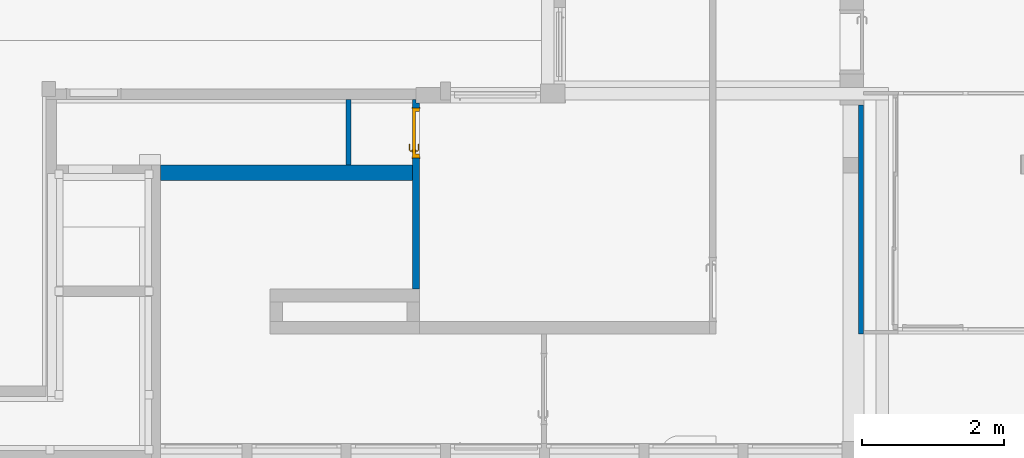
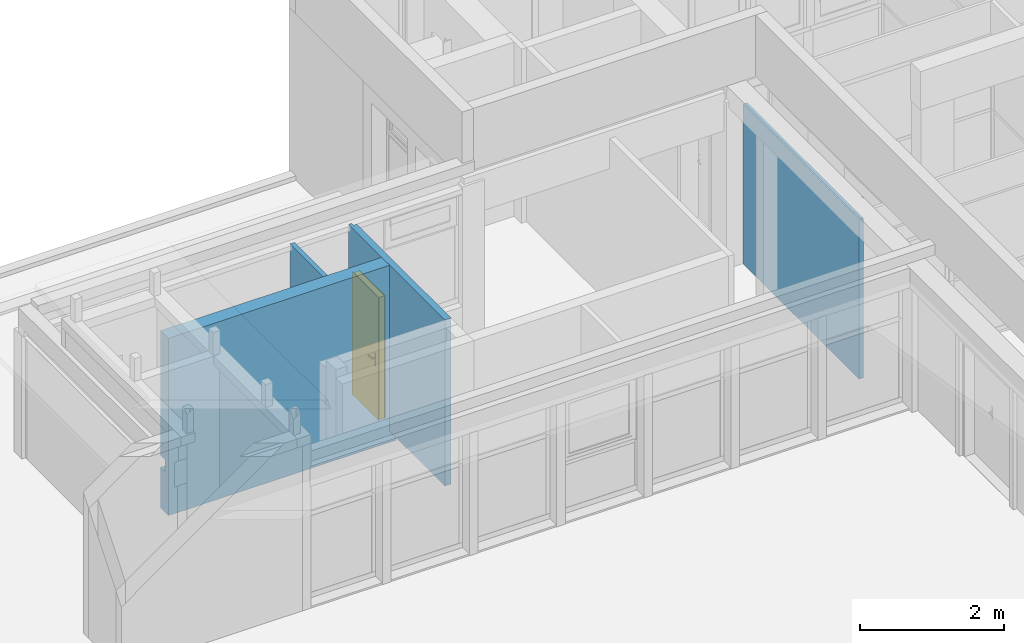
# One storey, part 23 of 49: 4 walls, 1 door, 2 openings.
"""IFC4 building model written with IfcOpenShell, lengths in metres."""

from ifc_helpers import new_model, entity, si_unit, converted_unit, derived_unit, direction, frame, origin, place, context, subcontext, project, spatial, indexed_curve, outline, extrude, polygons, source, transform, mapped, material, material_list, layer, layer_set, constituent, constituent_set, type_object, type_shapes, element, fill, save


model = new_model("IFC4")

# Units and contexts
model_context = context("Model", 3, precision=1e-05, world=origin(), true_north=direction((6.12303176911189e-17, 1.0)))
body_context = subcontext(model_context, "Body", "Model", "MODEL_VIEW")
ifc_project = project(units=[si_unit("LENGTHUNIT", "METRE"), si_unit("AREAUNIT", "SQUARE_METRE"), si_unit("VOLUMEUNIT", "CUBIC_METRE"), converted_unit("PLANEANGLEUNIT", "DEGREE", entity("IfcRatioMeasure", 0.0174532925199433), si_unit("PLANEANGLEUNIT", "RADIAN"), dimensions=[0, 0, 0, 0, 0, 0, 0]), si_unit("MASSUNIT", "GRAM", prefix="KILO"), derived_unit("MASSDENSITYUNIT", [(si_unit("MASSUNIT", "GRAM", prefix="KILO"), 1), (si_unit("LENGTHUNIT", "METRE"), -3)]), derived_unit("MOMENTOFINERTIAUNIT", [(si_unit("LENGTHUNIT", "METRE"), 4)]), si_unit("TIMEUNIT", "SECOND"), si_unit("FREQUENCYUNIT", "HERTZ"), si_unit("THERMODYNAMICTEMPERATUREUNIT", "DEGREE_CELSIUS"), derived_unit("THERMALTRANSMITTANCEUNIT", [(si_unit("MASSUNIT", "GRAM", prefix="KILO"), 1), (si_unit("THERMODYNAMICTEMPERATUREUNIT", "KELVIN"), -1), (si_unit("TIMEUNIT", "SECOND"), -3)]), derived_unit("VOLUMETRICFLOWRATEUNIT", [(si_unit("LENGTHUNIT", "METRE"), 3), (si_unit("TIMEUNIT", "SECOND"), -1)]), si_unit("ELECTRICCURRENTUNIT", "AMPERE"), si_unit("ELECTRICVOLTAGEUNIT", "VOLT"), si_unit("POWERUNIT", "WATT"), si_unit("FORCEUNIT", "NEWTON", prefix="KILO"), si_unit("ILLUMINANCEUNIT", "LUX"), si_unit("LUMINOUSFLUXUNIT", "LUMEN"), si_unit("LUMINOUSINTENSITYUNIT", "CANDELA"), derived_unit("USERDEFINED", [(si_unit("MASSUNIT", "GRAM", prefix="KILO"), -1), (si_unit("LENGTHUNIT", "METRE"), -2), (si_unit("TIMEUNIT", "SECOND"), 3), (si_unit("LUMINOUSFLUXUNIT", "LUMEN"), 1)]), derived_unit("LINEARVELOCITYUNIT", [(si_unit("LENGTHUNIT", "METRE"), 1), (si_unit("TIMEUNIT", "SECOND"), -1)]), si_unit("PRESSUREUNIT", "PASCAL"), derived_unit("USERDEFINED", [(si_unit("LENGTHUNIT", "METRE"), -2), (si_unit("MASSUNIT", "GRAM", prefix="KILO"), 1), (si_unit("TIMEUNIT", "SECOND"), -2)]), derived_unit("LINEARFORCEUNIT", [(si_unit("MASSUNIT", "GRAM", prefix="KILO"), 1), (si_unit("LENGTHUNIT", "METRE"), 1), (si_unit("TIMEUNIT", "SECOND"), -2), (si_unit("LENGTHUNIT", "METRE"), -1)]), derived_unit("PLANARFORCEUNIT", [(si_unit("MASSUNIT", "GRAM", prefix="KILO"), 1), (si_unit("LENGTHUNIT", "METRE"), 1), (si_unit("TIMEUNIT", "SECOND"), -2), (si_unit("LENGTHUNIT", "METRE"), -2)])], contexts=[model_context])

# Site, building, storey
site_placement = place(None, origin())
site = spatial("IfcSite", under=ifc_project, at=site_placement, Name="Default", CompositionType="ELEMENT")
building_placement = place(site_placement, origin())
building = spatial("IfcBuilding", under=site, at=building_placement, Name="HOTEL CONSULAIRE BOULOGNE SUR MER", CompositionType="ELEMENT")
storey_placement = place(building_placement, frame((0.0, 0.0, 6.81974152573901)))
storey = spatial("IfcBuildingStorey", under=building, at=storey_placement, Name="Niveau 2", CompositionType="ELEMENT", Elevation=6.81974152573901)

# Wall
ifc_material_1 = material(Name="Mur par défaut", Category="Divers")
ifc_layer_1 = layer(ifc_material_1, 0.07, Name="Mur par défaut", Category="Divers")
ifc_layer_set_1 = layer_set([ifc_layer_1], Name="Mur de base:Int. Plâtre 70 mm")
wall_type_1 = type_object("IfcWallType", Name="Mur de base:Int. Plâtre 70 mm", PredefinedType="NOTDEFINED", material=ifc_layer_set_1)
wall_1_placement = place(storey_placement, frame((4.4059869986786, -15.6352420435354, -0.0349999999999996), z_axis=(0.0, 0.0, 1.0), x_axis=(0.0, 1.0, 0.0)))
element("IfcWall", 1, at=wall_1_placement, inside=storey, type_object=wall_type_1, material=ifc_layer_set_1, Name="Mur de base:Int. Plâtre 70 mm", ObjectType="Mur de base:Int. Plâtre 70 mm", PredefinedType="NOTDEFINED", context=body_context, shape_type="SweptSolid", body=[
    extrude(outline(indexed_curve([(0.922331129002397, 0.0350000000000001), (-6.00400995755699e-17, 0.0350000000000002), (6.00400995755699e-17, -0.0350000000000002), (0.922331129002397, -0.0350000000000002), (0.922331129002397, 0.0350000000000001)], self_intersect=False)), origin(), (0.0, 0.0, 1.0), 2.857),
])

# Wall, opening, door
ifc_layer_2 = layer(ifc_material_1, 0.1, Name="Mur par défaut", Category="Divers")
ifc_layer_set_2 = layer_set([ifc_layer_2], Name="Mur de base:Générique - Int. 100 mm")
wall_type_2 = type_object("IfcWallType", Name="Mur de base:Générique - Int. 100 mm", PredefinedType="NOTDEFINED", material=ifc_layer_set_2)
wall_2_placement = place(storey_placement, frame((5.36198029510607, -17.3888875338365, 0.0), z_axis=(0.0, 0.0, 1.0), x_axis=(0.0, 1.0, 0.0)))
wall_2 = element("IfcWall", 2, at=wall_2_placement, inside=storey, type_object=wall_type_2, material=ifc_layer_set_2, Name="Mur de base:Générique - Int. 100 mm", ObjectType="Mur de base:Générique - Int. 100 mm", PredefinedType="NOTDEFINED", context=body_context, shape_type="Tessellation", body=[
    polygons([(2.67597661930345, 0.0499999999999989, 0.0), (2.67597661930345, -1.65241990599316e-15, 0.0), (2.62597661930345, 4.15699073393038e-16, 0.0), (2.62597661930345, -0.0500000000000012, 0.0), (2.55264549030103, -0.0500000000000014, 0.0), (2.55264549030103, 0.0499999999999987, 0.0), (2.62597661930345, -0.0500000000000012, 2.822), (0.0, -0.0500000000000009, 2.822), (0.0, -0.0500000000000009, 0.0), (1.53364549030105, -0.0500000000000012, 0.0), (1.85264549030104, -0.0500000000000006, 0.0), (1.85264549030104, -0.0500000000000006, 2.07500000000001), (2.55264549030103, -0.0500000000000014, 2.07500000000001), (2.55264549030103, 0.0499999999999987, 2.07500000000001), (1.85264549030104, 0.0499999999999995, 2.07500000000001), (1.85264549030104, 0.0499999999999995, 0.0), (1.75364549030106, 0.0499999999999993, 0.0), (1.53364549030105, 0.0499999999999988, 0.0), (0.0, 0.0499999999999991, 0.0), (2.16573425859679e-15, 0.0499999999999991, 2.822), (1.53364549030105, 0.0499999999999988, 2.822), (1.75364549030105, 0.0499999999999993, 2.822), (2.67597661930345, 0.0499999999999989, 2.822), (2.62597661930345, 4.15699073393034e-16, 2.73999999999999), (2.62597661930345, 4.15699073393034e-16, 2.822), (2.67597661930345, -2.73528703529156e-15, 0.642000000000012), (2.67597661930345, -1.65241990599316e-15, 2.73999999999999), (2.67597661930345, -1.65241990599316e-15, 2.822)], [[[5, 6, 1, 2, 3, 4]], [[10, 9, 19, 18, 17, 16, 11]], [[14, 13, 12, 15]], [[9, 10, 11, 12, 13, 5, 4, 7, 8]], [[24, 3, 2, 26, 27, 28, 25]], [[1, 6, 14, 15, 16, 17, 18, 19, 20, 21, 22, 23]], [[19, 9, 8, 20]], [[6, 5, 13, 14]], [[7, 4, 3, 24, 25]], [[28, 27, 26, 2, 1, 23]], [[16, 15, 12, 11]], [[21, 20, 8, 7, 25, 28, 23, 22]]], closed=True),
])
opening_1_placement = place(wall_2_placement, frame((1.85264549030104, -0.0499999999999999, 0.0)))
opening_1 = element("IfcOpeningElement", 3, at=opening_1_placement, cuts=wall_2, Name="Int. Simple:PP (0.63m x 2.04m):1", ObjectType="Opening", PredefinedType="OPENING", context=body_context, shape_type="SweptSolid", body=[
    extrude(outline(indexed_curve([(0.0, 0.699999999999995), (0.0, -1.56904934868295e-30), (2.07500000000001, -1.56904934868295e-30), (2.07500000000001, 0.699999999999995), (0.0, 0.699999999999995)], self_intersect=False)), frame((0.0, 0.0, 0.0), z_axis=(0.0, 1.0, 0.0), x_axis=(0.0, 0.0, 1.0)), (0.0, 0.0, 1.0), 0.1),
])
ifc_material_2 = material(Name="Finition Peinture - Blanc satiné", Category="Peinture")
ifc_constituent_1 = constituent(ifc_material_2, Name="Finition Peinture - Blanc satiné", Category="Matériaux")
ifc_material_3 = material(Name="Bois - Panneau de porte", Category="Bois")
ifc_constituent_2 = constituent(ifc_material_3, Name="Bois - Panneau de porte", Category="Matériaux")
ifc_material_4 = material(Name="Bois - Cadre de porte", Category="Bois")
ifc_constituent_3 = constituent(ifc_material_4, Name="Bois - Cadre de porte", Category="Matériaux")
ifc_constituent_set = constituent_set(constituents=[ifc_constituent_1, ifc_constituent_2, ifc_constituent_3], Name="MaterialConstituentSet")
ifc_material_list = material_list([ifc_material_4, ifc_material_4, ifc_material_2, ifc_material_3])
door_type = type_object("IfcDoorType", Name="Int. Simple:PP (0.63m x 2.04m)", OperationType="NOTDEFINED", PredefinedType="DOOR", material=ifc_material_list)
shared_shape = source(origin(), body_context, "Body", "Tessellation", [
    polygons([(0.695000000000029, -0.00500000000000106, 0.870000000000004), (0.695000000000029, -0.00500000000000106, 1.08), (0.68535276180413, -0.00500000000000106, 1.08399601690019), (0.675000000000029, -0.00500000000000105, 1.08535898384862), (0.664647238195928, -0.00500000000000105, 1.08399601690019), (0.65500000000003, -0.00500000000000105, 1.08), (0.655000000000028, -0.00500000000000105, 0.870000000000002), (0.664647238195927, -0.00500000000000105, 0.866003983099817), (0.675000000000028, -0.00500000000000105, 0.86464101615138), (0.685352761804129, -0.00500000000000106, 0.866003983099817), (0.695000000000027, -1.06594733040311e-15, 0.870000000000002), (0.685352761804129, -1.06594733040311e-15, 0.866003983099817), (0.675000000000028, -1.05748743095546e-15, 0.86464101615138), (0.664647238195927, -1.05748743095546e-15, 0.866003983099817), (0.655000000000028, -1.04902753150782e-15, 0.870000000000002), (0.655000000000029, -1.04902753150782e-15, 1.08), (0.664647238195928, -1.05748743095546e-15, 1.08399601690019), (0.675000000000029, -1.05748743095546e-15, 1.08535898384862), (0.68535276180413, -1.06594733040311e-15, 1.08399601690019), (0.695000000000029, -1.06594733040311e-15, 1.08)], [[[1, 2, 3, 4, 5, 6, 7, 8, 9, 10]], [[20, 11, 12, 13, 14, 15, 16, 17, 18, 19]], [[10, 12, 11, 1]], [[9, 13, 12, 10]], [[8, 14, 13, 9]], [[8, 7, 15, 14]], [[15, 7, 6, 16]], [[5, 17, 16, 6]], [[4, 18, 17, 5]], [[3, 19, 18, 4]], [[3, 2, 20, 19]], [[11, 20, 2, 1]]], closed=True),
    polygons([(0.65500000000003, 0.0399999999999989, 1.08), (0.655000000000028, 0.0399999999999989, 0.870000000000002), (0.664647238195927, 0.0399999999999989, 0.866003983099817), (0.675000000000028, 0.0399999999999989, 0.86464101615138), (0.685352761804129, 0.0399999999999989, 0.866003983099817), (0.695000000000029, 0.0399999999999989, 0.870000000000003), (0.695000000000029, 0.0399999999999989, 1.08), (0.68535276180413, 0.0399999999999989, 1.08399601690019), (0.675000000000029, 0.0399999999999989, 1.08535898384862), (0.664647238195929, 0.0399999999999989, 1.08399601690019), (0.65500000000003, 0.0449999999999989, 1.08), (0.664647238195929, 0.0449999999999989, 1.08399601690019), (0.675000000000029, 0.0449999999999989, 1.08535898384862), (0.68535276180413, 0.0449999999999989, 1.08399601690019), (0.695000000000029, 0.0449999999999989, 1.08), (0.695000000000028, 0.0449999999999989, 0.870000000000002), (0.685352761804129, 0.0449999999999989, 0.866003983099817), (0.675000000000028, 0.0449999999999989, 0.86464101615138), (0.664647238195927, 0.0449999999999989, 0.866003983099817), (0.655000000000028, 0.0449999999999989, 0.870000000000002)], [[[6, 7, 8, 9, 10, 1, 2, 3, 4, 5]], [[13, 14, 15, 16, 17, 18, 19, 20, 11, 12]], [[10, 12, 11, 1]], [[9, 13, 12, 10]], [[8, 14, 13, 9]], [[8, 7, 15, 14]], [[16, 15, 7, 6]], [[5, 17, 16, 6]], [[4, 18, 17, 5]], [[3, 19, 18, 4]], [[3, 2, 20, 19]], [[20, 2, 1, 11]]], closed=True),
    polygons([(0.681000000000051, -0.00500000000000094, 1.00699999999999), (0.68100000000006, -0.00500000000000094, 0.992999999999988), (0.677025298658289, -0.00500000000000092, 0.99221955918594), (0.67297470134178, -0.0050000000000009, 0.992219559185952), (0.669000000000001, -0.00500000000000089, 0.993000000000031), (0.669000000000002, -0.00500000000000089, 1.007), (0.672974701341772, -0.0050000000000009, 1.00778044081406), (0.677025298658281, -0.00500000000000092, 1.00778044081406), (0.669000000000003, -0.0276803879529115, 1.007), (0.672974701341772, -0.0293267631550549, 1.00778044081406), (0.677025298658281, -0.0310045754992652, 1.00778044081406), (0.681000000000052, -0.0326509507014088, 1.007), (0.669000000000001, -0.0276803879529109, 0.993000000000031), (0.68100000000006, -0.0326509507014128, 0.992999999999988), (0.677025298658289, -0.0310045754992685, 0.99221955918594), (0.67297470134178, -0.0293267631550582, 0.992219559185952), (0.657652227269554, -0.0390281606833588, 1.007), (0.659298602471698, -0.0430028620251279, 1.00778044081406), (0.660976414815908, -0.0470534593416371, 1.00778044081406), (0.662622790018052, -0.051028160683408, 1.007), (0.657652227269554, -0.0390281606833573, 0.993000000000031), (0.662622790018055, -0.0510281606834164, 0.992999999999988), (0.660976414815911, -0.0470534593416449, 0.99221955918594), (0.659298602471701, -0.0430028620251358, 0.992219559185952), (0.574981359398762, -0.0510281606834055, 1.007), (0.574981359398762, -0.0470534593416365, 1.00778044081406), (0.574981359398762, -0.0430028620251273, 1.00778044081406), (0.574981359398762, -0.0390281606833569, 1.00699999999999), (0.574981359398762, -0.0390281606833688, 0.993000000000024), (0.574981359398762, -0.0430028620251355, 0.992219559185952), (0.574981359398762, -0.0470534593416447, 0.99221955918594), (0.574981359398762, -0.0510281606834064, 0.992999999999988), (0.622692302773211, -0.051028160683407, 1.007), (0.617139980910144, -0.045028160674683, 1.0078786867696), (0.616316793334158, -0.039028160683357, 1.007), (0.622692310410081, -0.0510281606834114, 0.992999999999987), (0.617139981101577, -0.0450281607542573, 0.992121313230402), (0.61631679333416, -0.0390281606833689, 0.993000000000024)], [[[7, 8, 1, 2, 3, 4, 5, 6]], [[17, 21, 38, 29, 28, 35]], [[1, 8, 11, 12]], [[8, 7, 10, 18, 19, 11]], [[7, 6, 9, 10]], [[13, 9, 6, 5]], [[25, 26, 27, 28, 29, 30, 31, 32]], [[4, 16, 13, 5]], [[4, 3, 15, 23, 24, 16]], [[2, 14, 15, 3]], [[12, 14, 2, 1]], [[12, 11, 19, 20]], [[10, 9, 17, 18]], [[21, 17, 9, 13]], [[13, 16, 24, 21]], [[15, 14, 22, 23]], [[20, 22, 14, 12]], [[34, 26, 33]], [[33, 26, 25]], [[33, 20, 19]], [[18, 35, 34]], [[35, 18, 17]], [[28, 27, 35]], [[34, 27, 26]], [[34, 35, 27]], [[34, 33, 19]], [[18, 34, 19]], [[37, 30, 38]], [[31, 37, 36]], [[24, 38, 21]], [[30, 29, 38]], [[31, 36, 32]], [[36, 23, 22]], [[37, 23, 36]], [[37, 24, 23]], [[37, 38, 24]], [[30, 37, 31]], [[22, 20, 33, 25, 32, 36]]], closed=True),
    polygons([(0.66900000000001, 0.0449999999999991, 0.993000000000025), (0.672974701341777, 0.0449999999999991, 0.992219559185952), (0.677025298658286, 0.0449999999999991, 0.99221955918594), (0.681000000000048, 0.044999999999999, 0.992999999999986), (0.681000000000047, 0.044999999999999, 1.007), (0.677025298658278, 0.0449999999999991, 1.00778044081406), (0.672974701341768, 0.0449999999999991, 1.00778044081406), (0.668999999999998, 0.0449999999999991, 1.007), (0.668999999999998, 0.067485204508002, 1.007), (0.668999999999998, 0.0674852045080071, 0.993000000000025), (0.681000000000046, 0.0724557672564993, 1.007), (0.677025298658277, 0.070809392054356, 1.00778044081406), (0.672974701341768, 0.0691315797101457, 1.00778044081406), (0.681000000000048, 0.0724557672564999, 0.992999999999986), (0.672974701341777, 0.0691315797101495, 0.992219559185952), (0.677025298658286, 0.0708093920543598, 0.99221955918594), (0.65751471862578, 0.0789704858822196, 1.007), (0.657514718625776, 0.0789704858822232, 0.993000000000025), (0.662485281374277, 0.0909704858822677, 1.007), (0.660838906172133, 0.0869957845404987, 1.00778044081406), (0.659161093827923, 0.0829451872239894, 1.00778044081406), (0.662485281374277, 0.0909704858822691, 0.992999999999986), (0.659161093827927, 0.0829451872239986, 0.992219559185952), (0.660838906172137, 0.0869957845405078, 0.99221955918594), (0.574954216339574, 0.0789704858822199, 0.993000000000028), (0.574954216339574, 0.0789704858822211, 1.007), (0.574954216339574, 0.0829451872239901, 1.00778044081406), (0.574954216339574, 0.0869957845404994, 1.00778044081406), (0.574954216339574, 0.0909704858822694, 1.007), (0.574954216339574, 0.0909704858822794, 0.992999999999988), (0.574954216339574, 0.086995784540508, 0.99221955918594), (0.574954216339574, 0.0829451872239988, 0.992219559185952), (0.62255479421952, 0.0909704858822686, 1.007), (0.617057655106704, 0.0849704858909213, 1.0078786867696), (0.616234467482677, 0.0789704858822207, 1.007), (0.622554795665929, 0.0909704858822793, 0.992999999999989), (0.617057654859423, 0.0849704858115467, 0.992121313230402), (0.616234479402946, 0.0789704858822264, 0.993000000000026)], [[[2, 3, 4, 5, 6, 7, 8, 1]], [[18, 17, 35, 26, 25, 38]], [[9, 10, 1, 8]], [[27, 28, 29, 30, 31, 32, 25, 26]], [[7, 13, 9, 8]], [[7, 6, 12, 20, 21, 13]], [[5, 11, 12, 6]], [[11, 5, 4, 14]], [[4, 3, 16, 14]], [[3, 2, 15, 23, 24, 16]], [[2, 1, 10, 15]], [[17, 18, 10, 9]], [[9, 13, 21, 17]], [[11, 19, 20, 12]], [[22, 19, 11, 14]], [[14, 16, 24, 22]], [[15, 10, 18, 23]], [[34, 27, 35]], [[28, 34, 33]], [[21, 35, 17]], [[27, 26, 35]], [[28, 33, 29]], [[33, 20, 19]], [[34, 20, 33]], [[34, 21, 20]], [[34, 35, 21]], [[27, 34, 28]], [[19, 22, 36, 30, 29, 33]], [[37, 31, 36]], [[36, 31, 30]], [[36, 22, 24]], [[23, 38, 37]], [[38, 23, 18]], [[25, 32, 38]], [[37, 32, 31]], [[37, 38, 32]], [[37, 36, 24]], [[23, 37, 24]]], closed=True),
    polygons([(0.735000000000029, 0.04, 2.04), (0.735000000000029, 0.04, 0.0), (0.105000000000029, 0.04, 0.0), (0.105000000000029, 0.04, 2.04), (0.735000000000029, 3.38395977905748e-17, 2.04), (0.105000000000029, 3.38395977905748e-17, 2.04), (0.105000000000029, 3.38395977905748e-17, 0.0), (0.735000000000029, 3.38395977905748e-17, 0.0)], [[[4, 1, 2, 3]], [[5, 6, 7, 8]], [[5, 1, 4, 6]], [[6, 4, 3, 7]], [[7, 3, 2, 8]], [[8, 2, 1, 5]]], closed=True),
    polygons([(0.770000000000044, 0.0, 0.0), (0.735000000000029, 0.0, 0.0), (0.735000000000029, 0.040000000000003, 0.0), (0.720000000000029, 0.040000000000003, 0.0), (0.720000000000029, 0.100000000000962, 0.0), (0.770000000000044, 0.100000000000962, 0.0), (0.770000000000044, 0.100000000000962, 2.07500000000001), (0.770000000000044, 0.0, 2.07500000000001), (0.720000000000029, 0.100000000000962, 2.025), (0.120000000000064, 0.100000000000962, 2.025), (0.120000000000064, 0.100000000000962, -1.79828591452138e-24), (0.0700000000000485, 0.100000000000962, 1.16645647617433e-24), (0.0700000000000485, 0.100000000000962, 2.07500000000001), (0.720000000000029, 0.040000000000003, 2.025), (0.735000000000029, 0.040000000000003, 2.04), (0.105000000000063, 0.040000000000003, 2.04), (0.105000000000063, 0.040000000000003, 1.46419166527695e-24), (0.120000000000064, 0.040000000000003, 1.49408317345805e-25), (0.120000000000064, 0.040000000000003, 2.025), (0.735000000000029, 0.0, 2.04), (0.0700000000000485, 0.0, 2.07500000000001), (0.0700000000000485, 0.0, 4.03399441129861e-24), (0.105000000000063, 0.0, 0.0), (0.105000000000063, 0.0, 2.04)], [[[5, 6, 1, 2, 3, 4]], [[17, 23, 22, 12, 11, 18]], [[19, 10, 9, 14]], [[16, 15, 20, 24]], [[7, 8, 1, 6]], [[11, 10, 19, 18]], [[17, 16, 24, 23]], [[9, 10, 11, 12, 13, 7, 6, 5]], [[9, 5, 4, 14]], [[15, 3, 2, 20]], [[12, 22, 21, 13]], [[19, 14, 4, 3, 15, 16, 17, 18]], [[24, 20, 2, 1, 8, 21, 22, 23]], [[21, 8, 7, 13]]], closed=True),
    polygons([(0.755000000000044, 0.100000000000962, 0.0), (0.755000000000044, 0.105000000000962, 0.0), (0.785000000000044, 0.105000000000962, 0.0), (0.785000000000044, 0.100000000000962, 0.0), (0.785000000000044, 0.100000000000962, 2.09000000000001), (0.0550000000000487, 0.100000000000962, 2.09000000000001), (0.0550000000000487, 0.100000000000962, 1.09662010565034e-24), (0.0850000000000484, 0.100000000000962, -5.40476896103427e-24), (0.0850000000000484, 0.100000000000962, 2.06000000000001), (0.755000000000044, 0.100000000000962, 2.06000000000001), (0.785000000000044, 0.105000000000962, 2.09000000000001), (0.755000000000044, 0.105000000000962, 2.06000000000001), (0.0850000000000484, 0.105000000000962, 2.06000000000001), (0.0850000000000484, 0.105000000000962, 3.01102000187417e-24), (0.0550000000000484, 0.105000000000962, 9.94022571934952e-24), (0.0550000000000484, 0.105000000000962, 2.09000000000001)], [[[2, 3, 4, 1]], [[7, 15, 14, 8]], [[13, 12, 10, 9]], [[9, 10, 1, 4, 5, 6, 7, 8]], [[11, 5, 4, 3]], [[8, 14, 13, 9]], [[12, 13, 14, 15, 16, 11, 3, 2]], [[12, 2, 1, 10]], [[15, 7, 6, 16]], [[16, 6, 5, 11]]], closed=True),
    polygons([(0.0850000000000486, -0.005, -5.41433564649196e-16), (0.0550000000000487, -0.005, -5.41433564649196e-16), (0.0550000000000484, 0.0, -5.41433564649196e-16), (0.0850000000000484, 0.0, -5.41433564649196e-16), (0.755000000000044, -0.005, 0.0), (0.755000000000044, 0.0, 0.0), (0.785000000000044, 0.0, 0.0), (0.785000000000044, -0.005, 0.0), (0.785000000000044, -0.005, 2.09000000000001), (0.0550000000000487, -0.005, 2.09000000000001), (0.0850000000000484, -0.005, 2.06000000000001), (0.755000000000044, -0.005, 2.06000000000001), (0.785000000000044, 0.0, 2.09000000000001), (0.755000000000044, 0.0, 2.06000000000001), (0.0850000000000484, 0.0, 2.06000000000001), (0.0550000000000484, 0.0, 2.09000000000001)], [[[2, 3, 4, 1]], [[6, 7, 8, 5]], [[15, 14, 12, 11]], [[11, 12, 5, 8, 9, 10, 2, 1]], [[13, 9, 8, 7]], [[1, 4, 15, 11]], [[14, 15, 4, 3, 16, 13, 7, 6]], [[14, 6, 5, 12]], [[3, 2, 10, 16]], [[16, 10, 9, 13]]], closed=True),
])
type_shapes(door_type, [shared_shape])
door_placement = place(opening_1_placement, frame((0.770000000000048, 0.0999999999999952, 0.0), z_axis=(0.0, 0.0, 1.0), x_axis=(-1.0, 0.0, 0.0)))
door = element("IfcDoor", 4, at=door_placement, inside=storey, type_object=door_type, material=ifc_constituent_set, Name="Int. Simple:PP (0.63m x 2.04m)", ObjectType="Int. Simple:PP (0.63m x 2.04m)", OperationType="NOTDEFINED", OverallHeight=2.07500000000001, OverallWidth=0.699999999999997, PredefinedType="DOOR", context=body_context, shape_type="MappedRepresentation", body=[
    mapped(shared_shape, transform((0.0, 0.0, 0.0), scale=1.0)),
])
fill(opening_1, door)

# Wall, opening
ifc_layer_3 = layer(ifc_material_1, 0.22, Name="Mur par défaut", Category="Divers")
ifc_layer_set_3 = layer_set([ifc_layer_3], Name="Mur de base:Générique - Ext. 220 mm")
wall_type_3 = type_object("IfcWallType", Name="Mur de base:Générique - Ext. 220 mm", PredefinedType="NOTDEFINED", material=ifc_layer_set_3)
wall_3_placement = place(storey_placement, frame((5.41198029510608, -15.7452420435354, -0.18799999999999), z_axis=(0.0, 0.0, 1.0), x_axis=(-1.0, 0.0, 0.0)))
wall_3 = element("IfcWall", 5, at=wall_3_placement, inside=storey, type_object=wall_type_3, material=ifc_layer_set_3, Name="Mur de base:Générique - Ext. 220 mm", ObjectType="Mur de base:Générique - Ext. 220 mm", PredefinedType="NOTDEFINED", context=body_context, shape_type="SweptSolid", body=[
    extrude(outline(indexed_curve([(3.65450898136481, -0.109999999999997), (3.65450898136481, 0.110000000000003), (-2.43359388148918e-16, 0.110000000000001), (2.43359388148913e-16, -0.109999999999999), (3.65450898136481, -0.109999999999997)], self_intersect=False)), origin(), (0.0, 0.0, 1.0), 3.00999999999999),
])
opening_2_placement = place(storey_placement, frame((5.41198029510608, -15.7452420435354, -0.18799999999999), z_axis=(0.0, 0.0, 1.0), x_axis=(-1.0, 0.0, 0.0)))
element("IfcOpeningElement", 6, at=opening_2_placement, cuts=wall_3, Name="Mur de base:Générique - Ext. 220 mm:1", ObjectType="Opening", PredefinedType="OPENING", context=body_context, shape_type="SweptSolid", body=[
    extrude(outline(indexed_curve([(-1.30675784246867, -0.0599999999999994), (1.30675784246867, -0.0599999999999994), (1.30675784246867, 0.0599999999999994), (-1.30675784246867, 0.0600000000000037), (-1.30675784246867, -0.0599999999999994)], self_intersect=False)), frame((2.34775113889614, -0.0499999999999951, 0.68799999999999), z_axis=(0.0, 0.0, 1.0), x_axis=(-1.0, 0.0, 0.0)), (0.0, 0.0, 1.0), 0.2),
])

# Wall
ifc_layer_4 = layer(ifc_material_1, 0.07, Name="Mur par défaut", Category="Divers")
ifc_layer_set_4 = layer_set([ifc_layer_4], Name="Mur de base:Générique - Ext.70")
wall_type_4 = type_object("IfcWallType", Name="Mur de base:Générique - Ext.70", PredefinedType="NOTDEFINED", material=ifc_layer_set_4)
wall_4_placement = place(storey_placement, frame((11.6359585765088, -14.7908875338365, 0.0), z_axis=(0.0, 0.0, 1.0), x_axis=(0.0, -1.0, 0.0)))
element("IfcWall", 7, at=wall_4_placement, inside=storey, type_object=wall_type_4, material=ifc_layer_set_4, Name="Mur de base:Générique - Ext.70", ObjectType="Mur de base:Générique - Ext.70", PredefinedType="NOTDEFINED", context=body_context, shape_type="SweptSolid", body=[
    extrude(outline(indexed_curve([(3.234, 0.0350000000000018), (-5.82886103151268e-17, 0.0350000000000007), (5.82886103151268e-17, -0.0350000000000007), (3.234, -0.0349999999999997), (3.234, 0.0350000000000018)], self_intersect=False)), origin(), (0.0, 0.0, 1.0), 2.712),
])

save(model, "model.ifc")
